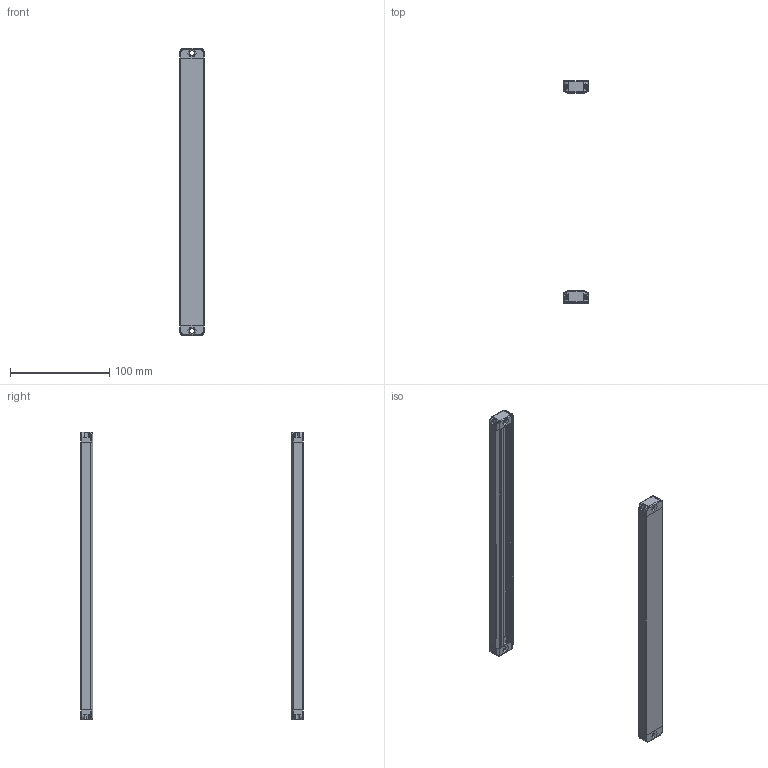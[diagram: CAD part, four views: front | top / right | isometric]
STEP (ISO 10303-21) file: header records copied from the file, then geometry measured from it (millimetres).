
FILE_DESCRIPTION (( 'STEP AP203' ), '1' );
FILE_NAME ('ZDB1420-270.STEP', '2022-08-31T03:09:10', ( 'Windows 蚚誧' ), ( 'Organization' ), 'SwSTEP 2.0', 'SolidWorks 2020', '' );
FILE_SCHEMA (( 'CONFIG_CONTROL_DESIGN' ));
Length unit declared in the file: millimetre
Products named in the file (4): 傷裔酘諉彶; 媼啃3臏倰第; ZDB1420-270; 傷裔衵
Assembly tree (6 placements, depth 2):
  ZDB1420-270
    傷裔衵  x2
    傷裔酘諉彶  x2
    媼啃3臏倰第  x2
Bounding box: 25 x 224 x 290 mm (x, y, z)
Volume: 57077.4 mm3; surface area: 91822.1 mm2
Topology: 6 solids, 6 shells, 650 faces, 1758 edges, 1124 vertices
Faces by surface type: plane 406, cylinder 188, torus 32, bspline 16, sphere 8
Entity records: 11427 total; most frequent: CARTESIAN_POINT 2721, ORIENTED_EDGE 1750, DIRECTION 1687, EDGE_CURVE 875, VECTOR 631, LINE 631, VERTEX_POINT 562, AXIS2_PLACEMENT_3D 528
